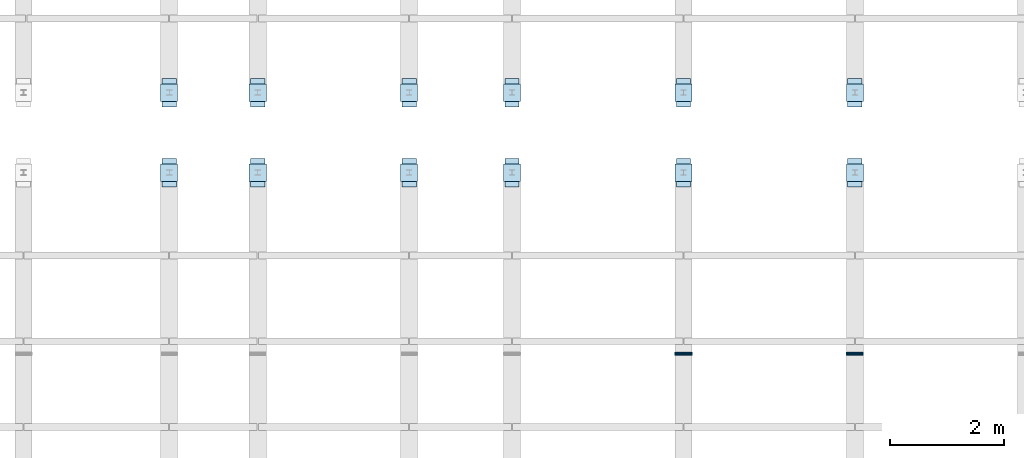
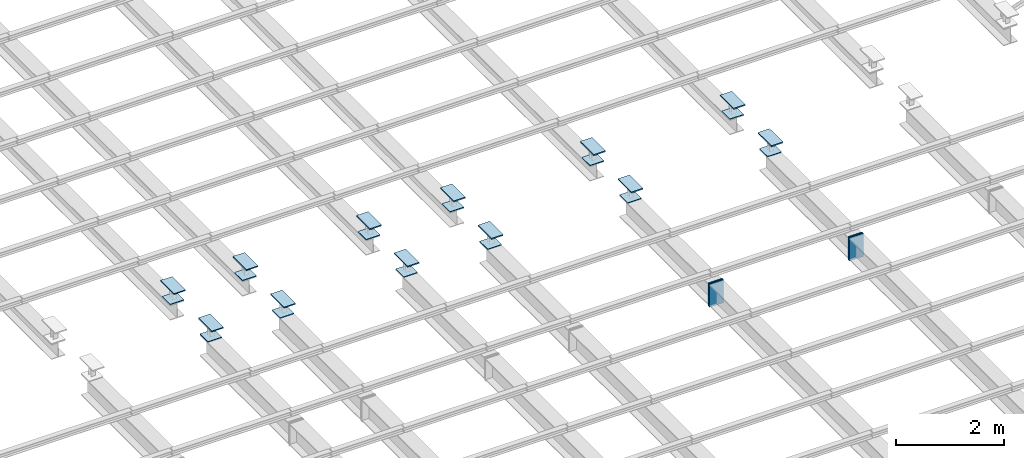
# One storey, part 122 of 139: 28 plates.
"""IFC2X3 building model written with IfcOpenShell, lengths in metres."""

import ifcopenshell
import ifcopenshell.guid

model = None  # the IFC model being written
_history = None  # IfcOwnerHistory: only IFC2X3 demands one
_inside = {}  # id of a spatial element -> (the spatial element, [elements in it])
_under = {}  # id of a project, library or spatial element -> (it, [spatial elements below it])
_declared = {}  # id of a project -> (the project, [libraries it declares])
_typed = {}  # id of a type object -> (the type object, [elements of that type])
_made_of = {}  # id of a material, layer set ... -> (it, [elements and type objects made of it])


def new_model(schema):
    """Start an empty IFC model of exactly this schema.

    Asked for "IFC4X3", IfcOpenShell would pick the latest addendum, in which some entities
    have other attributes; the version numbers below select the first issue.
    IFC2X3 requires an IfcOwnerHistory on every rooted entity: one is made here for all.
    """
    global model, _history
    if schema == "IFC4X3":
        model = ifcopenshell.file(schema_version=(4, 3, 0, 0))
    else:
        model = ifcopenshell.file(schema=schema)
    _inside.clear()
    _under.clear()
    _declared.clear()
    _typed.clear()
    _made_of.clear()
    _history = None
    if model.schema == "IFC2X3":
        org = make("IfcOrganization", Name="unknown")
        user = make(
            "IfcPersonAndOrganization",
            ThePerson=make("IfcPerson", FamilyName="unknown"),
            TheOrganization=org,
        )
        app = make(
            "IfcApplication",
            ApplicationDeveloper=org,
            Version="unknown",
            ApplicationFullName="unknown",
            ApplicationIdentifier="unknown",
        )
        _history = make(
            "IfcOwnerHistory",
            OwningUser=user,
            OwningApplication=app,
            ChangeAction="ADDED",
            CreationDate=0,
        )
    return model


def make(cls, **values):
    """One entity of the class cls with the attributes given. An attribute that is None is left unset."""
    return model.create_entity(
        cls, **{name: value for name, value in values.items() if value is not None}
    )


def entity(cls, *values):
    """Any entity or typed value of the class cls, its attributes in the order of the schema. None: left unset."""
    e = model.create_entity(cls)
    for i, value in enumerate(values):
        if value is not None:
            e[i] = value
    return e


def rooted(cls, **values):
    """An entity with a GlobalId (a new one), such as an element, a storey or a relation."""
    return make(cls, GlobalId=ifcopenshell.guid.new(), OwnerHistory=_history, **values)


def si_unit(unit_type, name, prefix=None):
    """IfcSIUnit, for example si_unit("LENGTHUNIT", "METRE", prefix="MILLI")."""
    return make("IfcSIUnit", UnitType=unit_type, Prefix=prefix, Name=name)


def converted_unit(unit_type, name, factor, base, dimensions=None, offset=None):
    """IfcConversionBasedUnit, such as the inch: factor (a typed value) times the base unit."""
    return make(
        "IfcConversionBasedUnit"
        if offset is None
        else "IfcConversionBasedUnitWithOffset",
        ConversionOffset=offset,
        Dimensions=None
        if dimensions is None
        else entity("IfcDimensionalExponents", *dimensions),
        UnitType=unit_type,
        Name=name,
        ConversionFactor=make(
            "IfcMeasureWithUnit", ValueComponent=factor, UnitComponent=base
        ),
    )


def derived_unit(unit_type, elements):
    """IfcDerivedUnit: a product of units, each with its exponent."""
    return make(
        "IfcDerivedUnit",
        Elements=[
            make("IfcDerivedUnitElement", Unit=unit, Exponent=power)
            for unit, power in elements
        ],
        UnitType=unit_type,
    )


def assignment(units):
    """IfcUnitAssignment: the units of a project."""
    return None if units is None else make("IfcUnitAssignment", Units=units)


def point(xyz):
    """IfcCartesianPoint."""
    return None if xyz is None else make("IfcCartesianPoint", Coordinates=xyz)


def direction(xyz):
    """IfcDirection."""
    return None if xyz is None else make("IfcDirection", DirectionRatios=xyz)


def frame(location, z_axis=None, x_axis=None):
    """IfcAxis2Placement3D, a coordinate frame: its origin and axes. An axis left out is left unset."""
    return make(
        "IfcAxis2Placement3D",
        Location=point(location),
        Axis=direction(z_axis),
        RefDirection=direction(x_axis),
    )


def origin():
    """The frame at (0, 0, 0) with its axes left unset."""
    return frame((0.0, 0.0, 0.0))


def place(relative_to, where):
    """IfcLocalPlacement: puts the frame where relative to a parent placement (None: the world)."""
    return make(
        "IfcLocalPlacement", PlacementRelTo=relative_to, RelativePlacement=where
    )


def context(
    kind, dimensions, precision=None, world=None, true_north=None, identifier=None
):
    """IfcGeometricRepresentationContext, for example the 3D "Model" context."""
    return make(
        "IfcGeometricRepresentationContext",
        ContextIdentifier=identifier,
        ContextType=kind,
        CoordinateSpaceDimension=dimensions,
        Precision=precision,
        WorldCoordinateSystem=world,
        TrueNorth=true_north,
    )


def subcontext(parent, identifier, kind, view, scale=None):
    """IfcGeometricRepresentationSubContext, for example "Body" below "Model"."""
    return make(
        "IfcGeometricRepresentationSubContext",
        ContextIdentifier=identifier,
        ContextType=kind,
        ParentContext=parent,
        TargetScale=scale,
        TargetView=view,
    )


def project(units=None, contexts=None):
    """IfcProject with its units and contexts."""
    return rooted(
        "IfcProject",
        Name="project",
        RepresentationContexts=contexts,
        UnitsInContext=assignment(units),
    )


def spatial(cls, under=None, at=None, **own):
    """A site, building, storey or space (cls), placed at a placement, below another one or the project."""
    s = rooted(cls, ObjectPlacement=at, **own)
    if under is not None:
        _under.setdefault(under.id(), (under, []))[1].append(s)
    return s


def faces_of(points, faces, orient=None, outer=None):
    """IfcFace entities. A face is a list of loops; a loop is a list of indices into points, from 0.

    orient and outer hold one flag for each loop. By default every Orientation is true, the
    first loop of a face is its IfcFaceOuterBound and the others are IfcFaceBound.
    """
    made = []
    for i, loops in enumerate(faces):
        bounds = []
        for j, loop in enumerate(loops):
            is_outer = j == 0 if outer is None else outer[i][j]
            bounds.append(
                make(
                    "IfcFaceOuterBound" if is_outer else "IfcFaceBound",
                    Bound=make("IfcPolyLoop", Polygon=[points[k] for k in loop]),
                    Orientation=True if orient is None else orient[i][j],
                )
            )
        made.append(make("IfcFace", Bounds=bounds))
    return made


def faceted_brep(points, faces, orient=None, outer=None, voids=None):
    """IfcFacetedBrep: a solid bounded by flat faces; with voids (closed shells), ...WithVoids."""
    shared = [point(p) for p in points]
    hull = make("IfcClosedShell", CfsFaces=faces_of(shared, faces, orient, outer))
    if voids is None:
        return make("IfcFacetedBrep", Outer=hull)
    return make(
        "IfcFacetedBrepWithVoids",
        Outer=hull,
        Voids=[
            make(cls, CfsFaces=faces_of(shared, fs, o, b)) for cls, fs, o, b in voids
        ],
    )


def shape(context_of_items, identifier, shape_type, items):
    """IfcShapeRepresentation: the items that make up one representation, for example the "Body"."""
    return make(
        "IfcShapeRepresentation",
        ContextOfItems=context_of_items,
        RepresentationIdentifier=identifier,
        RepresentationType=shape_type,
        Items=items,
    )


def material(Name=None, Category=None):
    """IfcMaterial."""
    return make("IfcMaterial", Name=Name, Category=Category)


def made_of(thing, what):
    """Note that an element or type object is made of a material, layer set ...; save() writes the relation."""
    if what is not None:
        _made_of.setdefault(what.id(), (what, []))[1].append(thing)
    return thing


def element(
    cls,
    number,
    at=None,
    inside=None,
    cuts=None,
    type_object=None,
    material=None,
    context=None,
    identifier="Body",
    shape_type=None,
    held_by="IfcProductDefinitionShape",
    body=None,
    shapes=None,
    **own,
):
    """One element of the class cls, such as IfcWall. Its Tag is "e" and its number.

    at: its placement. inside: the storey or other place that contains it. cuts: it is an
    opening in that element (IfcRelVoidsElement). A single representation is given by context,
    identifier, shape_type and body (its items); several are given by shapes. held_by: the class
    of the entity that holds the representations. save() writes the other relations.
    """
    e = rooted(cls, Tag="e%d" % number, ObjectPlacement=at, **own)
    if body is not None:
        shapes = [shape(context, identifier, shape_type, body)]
    if shapes is not None:
        e.Representation = make(held_by, Representations=shapes)
    if inside is not None:
        _inside.setdefault(inside.id(), (inside, []))[1].append(e)
    if cuts is not None:
        rooted(
            "IfcRelVoidsElement", RelatingBuildingElement=cuts, RelatedOpeningElement=e
        )
    if type_object is not None:
        _typed.setdefault(type_object.id(), (type_object, []))[1].append(e)
    return made_of(e, material)


def aggregate(whole, parts):
    """IfcRelAggregates: a whole, such as a stair, and the parts it consists of."""
    return rooted("IfcRelAggregates", RelatingObject=whole, RelatedObjects=parts)


def save(model, path):
    """Write the relations noted so far, then the file.

    IfcRelAggregates (storeys below a building ...), IfcRelContainedInSpatialStructure (elements
    in a storey), IfcRelDefinesByType, IfcRelAssociatesMaterial and IfcRelDeclares: one each for
    every whole, place, type object, material and project.
    """
    for whole, parts in _under.values():
        aggregate(whole, parts)
    for where, things in _inside.values():
        rooted(
            "IfcRelContainedInSpatialStructure",
            RelatedElements=things,
            RelatingStructure=where,
        )
    for kind, things in _typed.values():
        rooted("IfcRelDefinesByType", RelatedObjects=things, RelatingType=kind)
    for what, things in _made_of.values():
        rooted("IfcRelAssociatesMaterial", RelatedObjects=things, RelatingMaterial=what)
    for by, libraries in _declared.values():
        rooted("IfcRelDeclares", RelatingContext=by, RelatedDefinitions=libraries)
    model.write(path)


model = new_model("IFC2X3")

# Units and contexts
model_context = context("Model", 3, precision=1e-05, world=origin())
body_context = subcontext(model_context, "Body", "Model", "MODEL_VIEW")
ifc_project = project(units=[si_unit("LENGTHUNIT", "METRE"), si_unit("AREAUNIT", "SQUARE_METRE"), si_unit("VOLUMEUNIT", "CUBIC_METRE"), si_unit("MASSUNIT", "GRAM", prefix="KILO"), converted_unit("PLANEANGLEUNIT", "DEGREE", entity("IfcPlaneAngleMeasure", 0.0174532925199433), si_unit("PLANEANGLEUNIT", "RADIAN"), dimensions=[0, 0, 0, 0, 0, 0, 0]), derived_unit("THERMALTRANSMITTANCEUNIT", [(si_unit("POWERUNIT", "WATT"), 1), (si_unit("THERMODYNAMICTEMPERATUREUNIT", "KELVIN"), -1), (si_unit("LENGTHUNIT", "METRE"), -2)]), derived_unit("VOLUMETRICFLOWRATEUNIT", [(si_unit("LENGTHUNIT", "METRE"), 3), (converted_unit("TIMEUNIT", "hour", entity("IfcTimeMeasure", 3600.0), si_unit("TIMEUNIT", "SECOND"), dimensions=[0, 0, 1, 0, 0, 0, 0]), -1), (si_unit("LENGTHUNIT", "METRE"), -1)])], contexts=[model_context])

# Site, building, storey
site_placement = place(None, origin())
site = spatial("IfcSite", under=ifc_project, at=site_placement, Name="TWP_Speiseverteilzentrum SBW VZ II", CompositionType="ELEMENT")
building_placement = place(site_placement, origin())
building = spatial("IfcBuilding", under=site, at=building_placement, Name="Speiseverteilzentrum SBW VZ II", CompositionType="ELEMENT")
storey_placement = place(building_placement, frame((0.0, 0.0, 7.1307)))
storey = spatial("IfcBuildingStorey", under=building, at=storey_placement, Name="Wartung_FFB", CompositionType="ELEMENT", Elevation=7.1307)

# Plates
ifc_material_1 = material(Name="S355")
plate_1_placement = place(storey_placement, frame((36.9000000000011, 47.7070000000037, -0.7)))
element("IfcPlate", 1, at=plate_1_placement, inside=storey, material=ifc_material_1, Name="Stirnplatte", context=body_context, shape_type="Brep", body=[
    faceted_brep([(0.0, 0.025, 0.0), (0.3, 0.025, 0.0), (0.3, 0.025, 0.53), (0.0, 0.025, 0.53), (0.3, 0.0, 0.0), (0.3, 0.0, 0.53), (0.0, 0.0, 0.0), (0.0, 0.0, 0.53)], [[[0, 1, 2, 3]], [[1, 4, 5, 2]], [[4, 6, 7, 5]], [[6, 0, 3, 7]], [[7, 3, 2, 5]], [[0, 6, 4, 1]]], orient=[[False], [False], [False], [False], [False], [False]]),
])
ifc_material_2 = material(Name="S355")
plate_2_placement = place(storey_placement, frame((36.9000000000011, 47.7320000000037, -0.7)))
element("IfcPlate", 2, at=plate_2_placement, inside=storey, material=ifc_material_2, Name="Stirnplatte", context=body_context, shape_type="Brep", body=[
    faceted_brep([(0.0, 0.025, 0.0), (0.3, 0.025, 0.0), (0.3, 0.025, 0.53), (0.0, 0.025, 0.53), (0.3, 0.0, 0.0), (0.3, 0.0, 0.53), (0.0, 0.0, 0.0), (0.0, 0.0, 0.53)], [[[0, 1, 2, 3]], [[1, 4, 5, 2]], [[4, 6, 7, 5]], [[6, 0, 3, 7]], [[7, 3, 2, 5]], [[0, 6, 4, 1]]], orient=[[False], [False], [False], [False], [False], [False]]),
])
ifc_material_3 = material(Name="S355")
plate_3_placement = place(storey_placement, frame((39.9000000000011, 47.7070000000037, -0.7)))
element("IfcPlate", 3, at=plate_3_placement, inside=storey, material=ifc_material_3, Name="Stirnplatte", context=body_context, shape_type="Brep", body=[
    faceted_brep([(0.0, 0.025, 0.0), (0.3, 0.025, 0.0), (0.3, 0.025, 0.53), (0.0, 0.025, 0.53), (0.3, 0.0, 0.0), (0.3, 0.0, 0.53), (0.0, 0.0, 0.0), (0.0, 0.0, 0.53)], [[[0, 1, 2, 3]], [[1, 4, 5, 2]], [[4, 6, 7, 5]], [[6, 0, 3, 7]], [[7, 3, 2, 5]], [[0, 6, 4, 1]]], orient=[[False], [False], [False], [False], [False], [False]]),
])
ifc_material_4 = material(Name="S355")
plate_4_placement = place(storey_placement, frame((39.9000000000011, 47.7320000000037, -0.7)))
element("IfcPlate", 4, at=plate_4_placement, inside=storey, material=ifc_material_4, Name="Stirnplatte", context=body_context, shape_type="Brep", body=[
    faceted_brep([(0.0, 0.025, 0.0), (0.3, 0.025, 0.0), (0.3, 0.025, 0.53), (0.0, 0.025, 0.53), (0.3, 0.0, 0.0), (0.3, 0.0, 0.53), (0.0, 0.0, 0.0), (0.0, 0.0, 0.53)], [[[0, 1, 2, 3]], [[1, 4, 5, 2]], [[4, 6, 7, 5]], [[6, 0, 3, 7]], [[7, 3, 2, 5]], [[0, 6, 4, 1]]], orient=[[False], [False], [False], [False], [False], [False]]),
])
ifc_material_5 = material(Name="S235")
plate_5_placement = place(storey_placement, frame((27.9000000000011, 52.1500000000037, -0.189999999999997)))
element("IfcPlate", 5, at=plate_5_placement, inside=storey, material=ifc_material_5, Name="Verbindungsstück", context=body_context, shape_type="Brep", body=[
    faceted_brep([(0.0, 0.0, 0.015), (0.0, 0.0, 0.0), (0.0, 0.3, 0.0), (0.0, 0.3, 0.015), (0.3, 0.0, 0.015), (0.3, 0.0, 0.0), (0.3, 0.3, 0.015), (0.3, 0.3, 0.0)], [[[0, 1, 2, 3]], [[0, 4, 5, 1]], [[4, 6, 7, 5]], [[6, 3, 2, 7]], [[6, 4, 0, 3]], [[2, 1, 5, 7]]], orient=[[False], [False], [False], [False], [False], [False]]),
])
ifc_material_6 = material(Name="S235")
plate_6_placement = place(storey_placement, frame((33.9000000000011, 52.1500000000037, -0.189999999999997)))
element("IfcPlate", 6, at=plate_6_placement, inside=storey, material=ifc_material_6, Name="Verbindungsstück", context=body_context, shape_type="Brep", body=[
    faceted_brep([(0.0, 0.0, 0.015), (0.0, 0.0, 0.0), (0.0, 0.3, 0.0), (0.0, 0.3, 0.015), (0.3, 0.0, 0.015), (0.3, 0.0, 0.0), (0.3, 0.3, 0.015), (0.3, 0.3, 0.0)], [[[0, 1, 2, 3]], [[0, 4, 5, 1]], [[4, 6, 7, 5]], [[6, 3, 2, 7]], [[6, 4, 0, 3]], [[2, 1, 5, 7]]], orient=[[False], [False], [False], [False], [False], [False]]),
])
ifc_material_7 = material(Name="S235")
plate_7_placement = place(storey_placement, frame((36.9000000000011, 52.1500000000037, -0.189999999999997)))
element("IfcPlate", 7, at=plate_7_placement, inside=storey, material=ifc_material_7, Name="Verbindungsstück", context=body_context, shape_type="Brep", body=[
    faceted_brep([(0.0, 0.0, 0.015), (0.0, 0.0, 0.0), (0.0, 0.3, 0.0), (0.0, 0.3, 0.015), (0.3, 0.0, 0.015), (0.3, 0.0, 0.0), (0.3, 0.3, 0.015), (0.3, 0.3, 0.0)], [[[0, 1, 2, 3]], [[0, 4, 5, 1]], [[4, 6, 7, 5]], [[6, 3, 2, 7]], [[6, 4, 0, 3]], [[2, 1, 5, 7]]], orient=[[False], [False], [False], [False], [False], [False]]),
])
ifc_material_8 = material(Name="S235")
plate_8_placement = place(storey_placement, frame((39.9000000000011, 52.1500000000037, -0.189999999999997)))
element("IfcPlate", 8, at=plate_8_placement, inside=storey, material=ifc_material_8, Name="Verbindungsstück", context=body_context, shape_type="Brep", body=[
    faceted_brep([(0.0, 0.0, 0.015), (0.0, 0.0, 0.0), (0.0, 0.3, 0.0), (0.0, 0.3, 0.015), (0.3, 0.0, 0.015), (0.3, 0.0, 0.0), (0.3, 0.3, 0.015), (0.3, 0.3, 0.0)], [[[0, 1, 2, 3]], [[0, 4, 5, 1]], [[4, 6, 7, 5]], [[6, 3, 2, 7]], [[6, 4, 0, 3]], [[2, 1, 5, 7]]], orient=[[False], [False], [False], [False], [False], [False]]),
])
ifc_material_9 = material(Name="S235")
plate_9_placement = place(storey_placement, frame((27.9000000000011, 50.7500000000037, -0.189999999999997)))
element("IfcPlate", 9, at=plate_9_placement, inside=storey, material=ifc_material_9, Name="Verbindungsstück", context=body_context, shape_type="Brep", body=[
    faceted_brep([(0.0, 0.0, 0.015), (0.0, 0.0, 0.0), (0.0, 0.3, 0.0), (0.0, 0.3, 0.015), (0.3, 0.0, 0.015), (0.3, 0.0, 0.0), (0.3, 0.3, 0.015), (0.3, 0.3, 0.0)], [[[0, 1, 2, 3]], [[0, 4, 5, 1]], [[4, 6, 7, 5]], [[6, 3, 2, 7]], [[6, 4, 0, 3]], [[2, 1, 5, 7]]], orient=[[False], [False], [False], [False], [False], [False]]),
])
ifc_material_10 = material(Name="S235")
plate_10_placement = place(storey_placement, frame((33.9000000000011, 50.7500000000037, -0.189999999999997)))
element("IfcPlate", 10, at=plate_10_placement, inside=storey, material=ifc_material_10, Name="Verbindungsstück", context=body_context, shape_type="Brep", body=[
    faceted_brep([(0.0, 0.0, 0.015), (0.0, 0.0, 0.0), (0.0, 0.3, 0.0), (0.0, 0.3, 0.015), (0.3, 0.0, 0.015), (0.3, 0.0, 0.0), (0.3, 0.3, 0.015), (0.3, 0.3, 0.0)], [[[0, 1, 2, 3]], [[0, 4, 5, 1]], [[4, 6, 7, 5]], [[6, 3, 2, 7]], [[6, 4, 0, 3]], [[2, 1, 5, 7]]], orient=[[False], [False], [False], [False], [False], [False]]),
])
ifc_material_11 = material(Name="S235")
plate_11_placement = place(storey_placement, frame((36.9000000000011, 50.7500000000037, -0.189999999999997)))
element("IfcPlate", 11, at=plate_11_placement, inside=storey, material=ifc_material_11, Name="Verbindungsstück", context=body_context, shape_type="Brep", body=[
    faceted_brep([(0.0, 0.0, 0.015), (0.0, 0.0, 0.0), (0.0, 0.3, 0.0), (0.0, 0.3, 0.015), (0.3, 0.0, 0.015), (0.3, 0.0, 0.0), (0.3, 0.3, 0.015), (0.3, 0.3, 0.0)], [[[0, 1, 2, 3]], [[0, 4, 5, 1]], [[4, 6, 7, 5]], [[6, 3, 2, 7]], [[6, 4, 0, 3]], [[2, 1, 5, 7]]], orient=[[False], [False], [False], [False], [False], [False]]),
])
ifc_material_12 = material(Name="S235")
plate_12_placement = place(storey_placement, frame((39.9000000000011, 50.7500000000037, -0.189999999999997)))
element("IfcPlate", 12, at=plate_12_placement, inside=storey, material=ifc_material_12, Name="Verbindungsstück", context=body_context, shape_type="Brep", body=[
    faceted_brep([(0.0, 0.0, 0.015), (0.0, 0.0, 0.0), (0.0, 0.3, 0.0), (0.0, 0.3, 0.015), (0.3, 0.0, 0.015), (0.3, 0.0, 0.0), (0.3, 0.3, 0.015), (0.3, 0.3, 0.0)], [[[0, 1, 2, 3]], [[0, 4, 5, 1]], [[4, 6, 7, 5]], [[6, 3, 2, 7]], [[6, 4, 0, 3]], [[2, 1, 5, 7]]], orient=[[False], [False], [False], [False], [False], [False]]),
])
ifc_material_13 = material(Name="S235")
plate_13_placement = place(storey_placement, frame((27.9250000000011, 50.6500000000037, 0.0943000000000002)))
element("IfcPlate", 13, at=plate_13_placement, inside=storey, material=ifc_material_13, Name="Verbindungsstück", context=body_context, shape_type="Brep", body=[
    faceted_brep([(0.0, 0.0, 0.025), (0.0, 0.0, 0.0), (0.0, 0.5, 0.0), (0.0, 0.5, 0.025), (0.25, 0.0, 0.025), (0.25, 0.0, 0.0), (0.25, 0.5, 0.025), (0.25, 0.5, 0.0)], [[[0, 1, 2, 3]], [[0, 4, 5, 1]], [[4, 6, 7, 5]], [[6, 3, 2, 7]], [[6, 4, 0, 3]], [[2, 1, 5, 7]]], orient=[[False], [False], [False], [False], [False], [False]]),
])
ifc_material_14 = material(Name="S235")
plate_14_placement = place(storey_placement, frame((33.9250000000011, 50.6500000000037, 0.0943000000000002)))
element("IfcPlate", 14, at=plate_14_placement, inside=storey, material=ifc_material_14, Name="Verbindungsstück", context=body_context, shape_type="Brep", body=[
    faceted_brep([(0.0, 0.0, 0.025), (0.0, 0.0, 0.0), (0.0, 0.5, 0.0), (0.0, 0.5, 0.025), (0.25, 0.0, 0.025), (0.25, 0.0, 0.0), (0.25, 0.5, 0.025), (0.25, 0.5, 0.0)], [[[0, 1, 2, 3]], [[0, 4, 5, 1]], [[4, 6, 7, 5]], [[6, 3, 2, 7]], [[6, 4, 0, 3]], [[2, 1, 5, 7]]], orient=[[False], [False], [False], [False], [False], [False]]),
])
ifc_material_15 = material(Name="S235")
plate_15_placement = place(storey_placement, frame((36.9250000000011, 50.6500000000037, 0.0943000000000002)))
element("IfcPlate", 15, at=plate_15_placement, inside=storey, material=ifc_material_15, Name="Verbindungsstück", context=body_context, shape_type="Brep", body=[
    faceted_brep([(0.0, 0.0, 0.025), (0.0, 0.0, 0.0), (0.0, 0.5, 0.0), (0.0, 0.5, 0.025), (0.25, 0.0, 0.025), (0.25, 0.0, 0.0), (0.25, 0.5, 0.025), (0.25, 0.5, 0.0)], [[[0, 1, 2, 3]], [[0, 4, 5, 1]], [[4, 6, 7, 5]], [[6, 3, 2, 7]], [[6, 4, 0, 3]], [[2, 1, 5, 7]]], orient=[[False], [False], [False], [False], [False], [False]]),
])
ifc_material_16 = material(Name="S235")
plate_16_placement = place(storey_placement, frame((39.9250000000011, 50.6500000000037, 0.0943000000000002)))
element("IfcPlate", 16, at=plate_16_placement, inside=storey, material=ifc_material_16, Name="Verbindungsstück", context=body_context, shape_type="Brep", body=[
    faceted_brep([(0.0, 0.0, 0.025), (0.0, 0.0, 0.0), (0.0, 0.5, 0.0), (0.0, 0.5, 0.025), (0.25, 0.0, 0.025), (0.25, 0.0, 0.0), (0.25, 0.5, 0.025), (0.25, 0.5, 0.0)], [[[0, 1, 2, 3]], [[0, 4, 5, 1]], [[4, 6, 7, 5]], [[6, 3, 2, 7]], [[6, 4, 0, 3]], [[2, 1, 5, 7]]], orient=[[False], [False], [False], [False], [False], [False]]),
])
ifc_material_17 = material(Name="S235")
plate_17_placement = place(storey_placement, frame((27.9250000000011, 52.0500000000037, 0.0942999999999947)))
element("IfcPlate", 17, at=plate_17_placement, inside=storey, material=ifc_material_17, Name="Verbindungsstück", context=body_context, shape_type="Brep", body=[
    faceted_brep([(0.0, 0.0, 0.025), (0.0, 0.0, 0.0), (0.0, 0.5, 0.0), (0.0, 0.5, 0.025), (0.25, 0.0, 0.025), (0.25, 0.0, 0.0), (0.25, 0.5, 0.025), (0.25, 0.5, 0.0)], [[[0, 1, 2, 3]], [[0, 4, 5, 1]], [[4, 6, 7, 5]], [[6, 3, 2, 7]], [[6, 4, 0, 3]], [[2, 1, 5, 7]]], orient=[[False], [False], [False], [False], [False], [False]]),
])
ifc_material_18 = material(Name="S235")
plate_18_placement = place(storey_placement, frame((33.9250000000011, 52.0500000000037, 0.0942999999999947)))
element("IfcPlate", 18, at=plate_18_placement, inside=storey, material=ifc_material_18, Name="Verbindungsstück", context=body_context, shape_type="Brep", body=[
    faceted_brep([(0.0, 0.0, 0.025), (0.0, 0.0, 0.0), (0.0, 0.5, 0.0), (0.0, 0.5, 0.025), (0.25, 0.0, 0.025), (0.25, 0.0, 0.0), (0.25, 0.5, 0.025), (0.25, 0.5, 0.0)], [[[0, 1, 2, 3]], [[0, 4, 5, 1]], [[4, 6, 7, 5]], [[6, 3, 2, 7]], [[6, 4, 0, 3]], [[2, 1, 5, 7]]], orient=[[False], [False], [False], [False], [False], [False]]),
])
ifc_material_19 = material(Name="S235")
plate_19_placement = place(storey_placement, frame((36.9250000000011, 52.0500000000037, 0.0942999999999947)))
element("IfcPlate", 19, at=plate_19_placement, inside=storey, material=ifc_material_19, Name="Verbindungsstück", context=body_context, shape_type="Brep", body=[
    faceted_brep([(0.0, 0.0, 0.025), (0.0, 0.0, 0.0), (0.0, 0.5, 0.0), (0.0, 0.5, 0.025), (0.25, 0.0, 0.025), (0.25, 0.0, 0.0), (0.25, 0.5, 0.025), (0.25, 0.5, 0.0)], [[[0, 1, 2, 3]], [[0, 4, 5, 1]], [[4, 6, 7, 5]], [[6, 3, 2, 7]], [[6, 4, 0, 3]], [[2, 1, 5, 7]]], orient=[[False], [False], [False], [False], [False], [False]]),
])
ifc_material_20 = material(Name="S235")
plate_20_placement = place(storey_placement, frame((39.9250000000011, 52.0500000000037, 0.0942999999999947)))
element("IfcPlate", 20, at=plate_20_placement, inside=storey, material=ifc_material_20, Name="Verbindungsstück", context=body_context, shape_type="Brep", body=[
    faceted_brep([(0.0, 0.0, 0.025), (0.0, 0.0, 0.0), (0.0, 0.5, 0.0), (0.0, 0.5, 0.025), (0.25, 0.0, 0.025), (0.25, 0.0, 0.0), (0.25, 0.5, 0.025), (0.25, 0.5, 0.0)], [[[0, 1, 2, 3]], [[0, 4, 5, 1]], [[4, 6, 7, 5]], [[6, 3, 2, 7]], [[6, 4, 0, 3]], [[2, 1, 5, 7]]], orient=[[False], [False], [False], [False], [False], [False]]),
])
ifc_material_21 = material(Name="S235")
plate_21_placement = place(storey_placement, frame((32.1000000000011, 50.7500000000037, -0.189999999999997)))
element("IfcPlate", 21, at=plate_21_placement, inside=storey, material=ifc_material_21, Name="Verbindungsstück", context=body_context, shape_type="Brep", body=[
    faceted_brep([(0.0, 0.0, 0.015), (0.0, 0.0, 0.0), (0.0, 0.3, 0.0), (0.0, 0.3, 0.015), (0.3, 0.0, 0.015), (0.3, 0.0, 0.0), (0.3, 0.3, 0.015), (0.3, 0.3, 0.0)], [[[0, 1, 2, 3]], [[0, 4, 5, 1]], [[4, 6, 7, 5]], [[6, 3, 2, 7]], [[6, 4, 0, 3]], [[2, 1, 5, 7]]], orient=[[False], [False], [False], [False], [False], [False]]),
])
ifc_material_22 = material(Name="S235")
plate_22_placement = place(storey_placement, frame((32.1250000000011, 50.6500000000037, 0.0943000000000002)))
element("IfcPlate", 22, at=plate_22_placement, inside=storey, material=ifc_material_22, Name="Verbindungsstück", context=body_context, shape_type="Brep", body=[
    faceted_brep([(0.0, 0.0, 0.025), (0.0, 0.0, 0.0), (0.0, 0.5, 0.0), (0.0, 0.5, 0.025), (0.25, 0.0, 0.025), (0.25, 0.0, 0.0), (0.25, 0.5, 0.025), (0.25, 0.5, 0.0)], [[[0, 1, 2, 3]], [[0, 4, 5, 1]], [[4, 6, 7, 5]], [[6, 3, 2, 7]], [[6, 4, 0, 3]], [[2, 1, 5, 7]]], orient=[[False], [False], [False], [False], [False], [False]]),
])
ifc_material_23 = material(Name="S235")
plate_23_placement = place(storey_placement, frame((32.1000000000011, 52.1500000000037, -0.189999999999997)))
element("IfcPlate", 23, at=plate_23_placement, inside=storey, material=ifc_material_23, Name="Verbindungsstück", context=body_context, shape_type="Brep", body=[
    faceted_brep([(0.0, 0.0, 0.015), (0.0, 0.0, 0.0), (0.0, 0.3, 0.0), (0.0, 0.3, 0.015), (0.3, 0.0, 0.015), (0.3, 0.0, 0.0), (0.3, 0.3, 0.015), (0.3, 0.3, 0.0)], [[[0, 1, 2, 3]], [[0, 4, 5, 1]], [[4, 6, 7, 5]], [[6, 3, 2, 7]], [[6, 4, 0, 3]], [[2, 1, 5, 7]]], orient=[[False], [False], [False], [False], [False], [False]]),
])
ifc_material_24 = material(Name="S235")
plate_24_placement = place(storey_placement, frame((32.1250000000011, 52.0500000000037, 0.0942999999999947)))
element("IfcPlate", 24, at=plate_24_placement, inside=storey, material=ifc_material_24, Name="Verbindungsstück", context=body_context, shape_type="Brep", body=[
    faceted_brep([(0.0, 0.0, 0.025), (0.0, 0.0, 0.0), (0.0, 0.5, 0.0), (0.0, 0.5, 0.025), (0.25, 0.0, 0.025), (0.25, 0.0, 0.0), (0.25, 0.5, 0.025), (0.25, 0.5, 0.0)], [[[0, 1, 2, 3]], [[0, 4, 5, 1]], [[4, 6, 7, 5]], [[6, 3, 2, 7]], [[6, 4, 0, 3]], [[2, 1, 5, 7]]], orient=[[False], [False], [False], [False], [False], [False]]),
])
ifc_material_25 = material(Name="S235")
plate_25_placement = place(storey_placement, frame((29.4500000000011, 50.7500000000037, -0.189999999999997)))
element("IfcPlate", 25, at=plate_25_placement, inside=storey, material=ifc_material_25, Name="Verbindungsstück", context=body_context, shape_type="Brep", body=[
    faceted_brep([(0.0, 0.0, 0.015), (0.0, 0.0, 0.0), (0.0, 0.3, 0.0), (0.0, 0.3, 0.015), (0.3, 0.0, 0.015), (0.3, 0.0, 0.0), (0.3, 0.3, 0.015), (0.3, 0.3, 0.0)], [[[0, 1, 2, 3]], [[0, 4, 5, 1]], [[4, 6, 7, 5]], [[6, 3, 2, 7]], [[6, 4, 0, 3]], [[2, 1, 5, 7]]], orient=[[False], [False], [False], [False], [False], [False]]),
])
ifc_material_26 = material(Name="S235")
plate_26_placement = place(storey_placement, frame((29.4750000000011, 50.6500000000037, 0.0943000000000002)))
element("IfcPlate", 26, at=plate_26_placement, inside=storey, material=ifc_material_26, Name="Verbindungsstück", context=body_context, shape_type="Brep", body=[
    faceted_brep([(0.0, 0.0, 0.025), (0.0, 0.0, 0.0), (0.0, 0.5, 0.0), (0.0, 0.5, 0.025), (0.25, 0.0, 0.025), (0.25, 0.0, 0.0), (0.25, 0.5, 0.025), (0.25, 0.5, 0.0)], [[[0, 1, 2, 3]], [[0, 4, 5, 1]], [[4, 6, 7, 5]], [[6, 3, 2, 7]], [[6, 4, 0, 3]], [[2, 1, 5, 7]]], orient=[[False], [False], [False], [False], [False], [False]]),
])
ifc_material_27 = material(Name="S235")
plate_27_placement = place(storey_placement, frame((29.4500000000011, 52.1500000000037, -0.189999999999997)))
element("IfcPlate", 27, at=plate_27_placement, inside=storey, material=ifc_material_27, Name="Verbindungsstück", context=body_context, shape_type="Brep", body=[
    faceted_brep([(0.0, 0.0, 0.015), (0.0, 0.0, 0.0), (0.0, 0.3, 0.0), (0.0, 0.3, 0.015), (0.3, 0.0, 0.015), (0.3, 0.0, 0.0), (0.3, 0.3, 0.015), (0.3, 0.3, 0.0)], [[[0, 1, 2, 3]], [[0, 4, 5, 1]], [[4, 6, 7, 5]], [[6, 3, 2, 7]], [[6, 4, 0, 3]], [[2, 1, 5, 7]]], orient=[[False], [False], [False], [False], [False], [False]]),
])
ifc_material_28 = material(Name="S235")
plate_28_placement = place(storey_placement, frame((29.4750000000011, 52.0500000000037, 0.0942999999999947)))
element("IfcPlate", 28, at=plate_28_placement, inside=storey, material=ifc_material_28, Name="Verbindungsstück", context=body_context, shape_type="Brep", body=[
    faceted_brep([(0.0, 0.0, 0.025), (0.0, 0.0, 0.0), (0.0, 0.5, 0.0), (0.0, 0.5, 0.025), (0.25, 0.0, 0.025), (0.25, 0.0, 0.0), (0.25, 0.5, 0.025), (0.25, 0.5, 0.0)], [[[0, 1, 2, 3]], [[0, 4, 5, 1]], [[4, 6, 7, 5]], [[6, 3, 2, 7]], [[6, 4, 0, 3]], [[2, 1, 5, 7]]], orient=[[False], [False], [False], [False], [False], [False]]),
])

save(model, "model.ifc")
